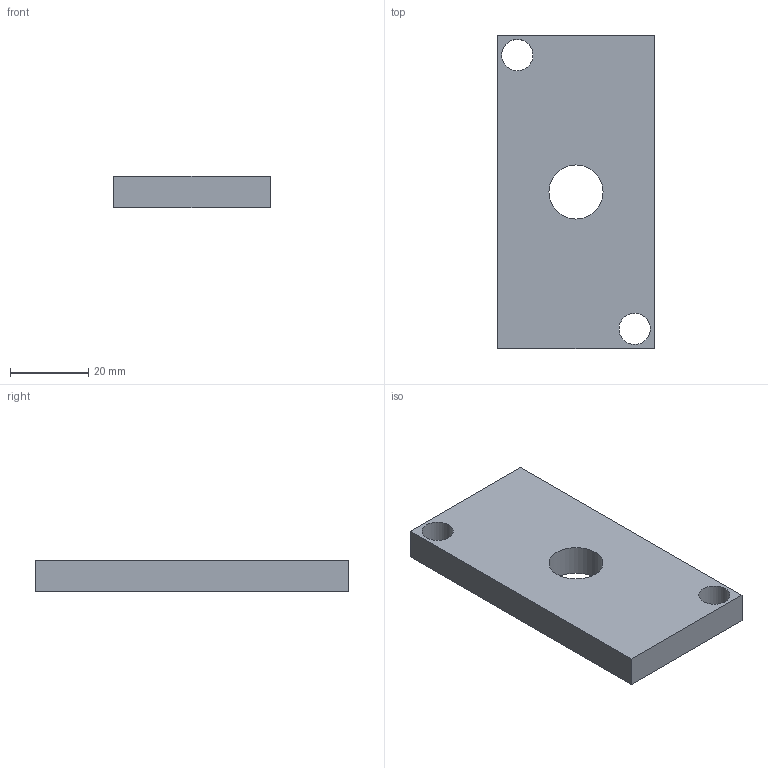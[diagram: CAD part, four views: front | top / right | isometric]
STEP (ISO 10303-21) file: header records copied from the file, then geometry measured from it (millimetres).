
FILE_DESCRIPTION((''),'2;1');
FILE_NAME('C:\Vault Klient\Projekt\Step\100-1180.stp','2009-12-10T08:50:35',('Mathias'),(''),'Autodesk Inventor 2010','Autodesk Inventor 2010','');
FILE_SCHEMA(('CONFIG_CONTROL_DESIGN'));
Length unit declared in the file: millimetre
Products named in the file (1): 100-1180
Bounding box: 40 x 80 x 8 mm (x, y, z)
Volume: 23593.5 mm3; surface area: 8567.9 mm2
Topology: 1 solids, 1 shells, 9 faces, 24 edges, 17 vertices
Faces by surface type: plane 6, bspline 3
Entity records: 323 total; most frequent: CARTESIAN_POINT 93, DIRECTION 38, ORIENTED_EDGE 36, EDGE_CURVE 18, EDGE_LOOP 18, VERTEX_POINT 14, AXIS2_PLACEMENT_3D 13, VECTOR 12
